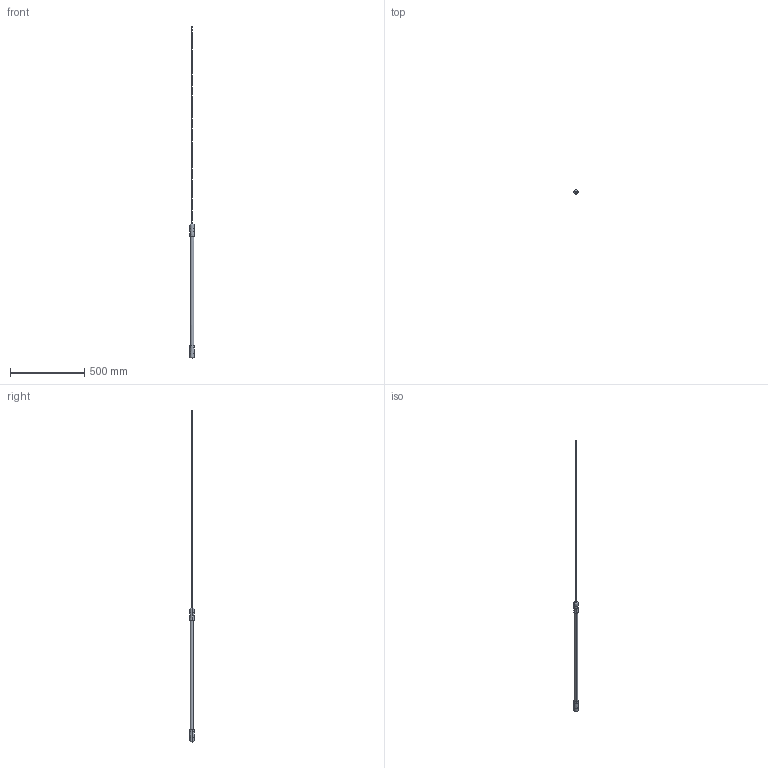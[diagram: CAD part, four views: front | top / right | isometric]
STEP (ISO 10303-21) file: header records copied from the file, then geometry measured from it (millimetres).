
FILE_DESCRIPTION(/* description */ (''),/* implementation_level */ '2;1');
FILE_NAME(/* name */ '1OQFRK~I',/* time_stamp */ '2026-03-05T15:48:13+01:00',/* author */ (''),/* organization */ (''),/* preprocessor_version */ 'ST-DEVELOPER v16.5',/* originating_system */ '',/* authorisation */ '');
FILE_SCHEMA (('AUTOMOTIVE_DESIGN'));
Length unit declared in the file: millimetre
Products named in the file (1): Document
Bounding box: 28.12 x 28.1 x 2231.26 mm (x, y, z)
Volume: 374469.9 mm3; surface area: 206938 mm2
Topology: 5 solids, 5 shells, 28 faces, 54 edges, 30 vertices
Faces by surface type: bspline 28
Entity records: 1823 total; most frequent: CARTESIAN_POINT 1164, ORIENTED_EDGE 100, PCURVE 100, DEFINITIONAL_REPRESENTATION 100, B_SPLINE_CURVE_WITH_KNOTS 98, SURFACE_CURVE 50, EDGE_CURVE 50, EDGE_LOOP 30
